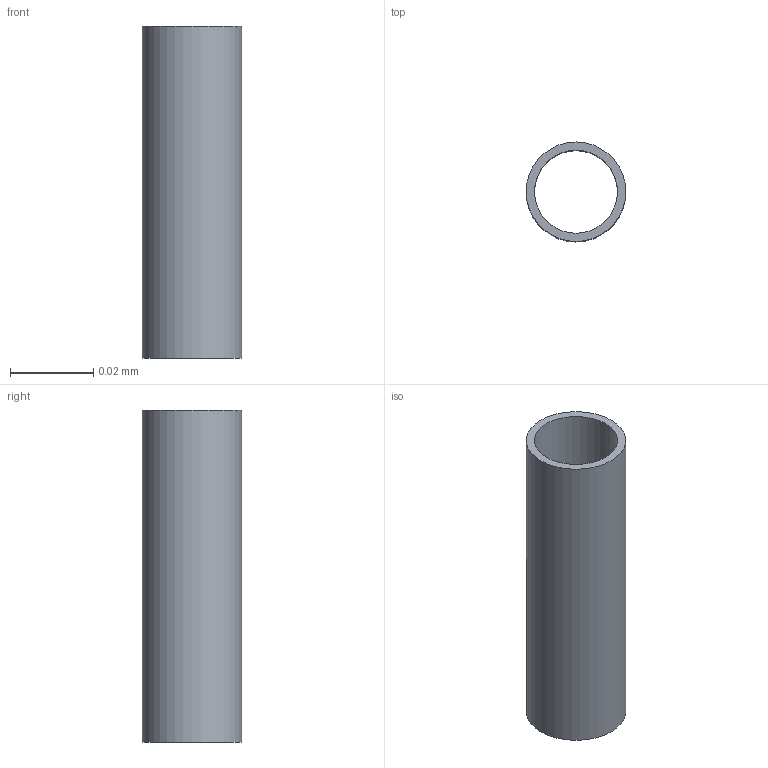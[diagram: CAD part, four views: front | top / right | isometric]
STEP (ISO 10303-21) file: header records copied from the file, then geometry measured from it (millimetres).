
FILE_DESCRIPTION(('Open CASCADE Model'),'2;1');
FILE_NAME('Open CASCADE Shape Model','2026-09-12T21:27:05',('Author'),( 'Open CASCADE'),'Open CASCADE STEP processor 7.8','Open CASCADE 7.8' ,'Unknown');
FILE_SCHEMA(('AUTOMOTIVE_DESIGN { 1 0 10303 214 1 1 1 1 }'));
Length unit declared in the file: millimetre
Products named in the file (1): Open CASCADE STEP translator 7.8 1
Bounding box: 0.02 x 0.02 x 0.08 mm (x, y, z)
Volume: 0 mm3; surface area: 0 mm2
Topology: 1 solids, 1 shells, 4 faces, 6 edges, 4 vertices
Faces by surface type: cylinder 2, plane 2
Full cylindrical faces by diameter (mm): 0.02 x1, 0.024 x1
Entity records: 186 total; most frequent: DIRECTION 32, CARTESIAN_POINT 27, ORIENTED_EDGE 12, PCURVE 12, DEFINITIONAL_REPRESENTATION 12, LINE 10, VECTOR 10, AXIS2_PLACEMENT_3D 9
